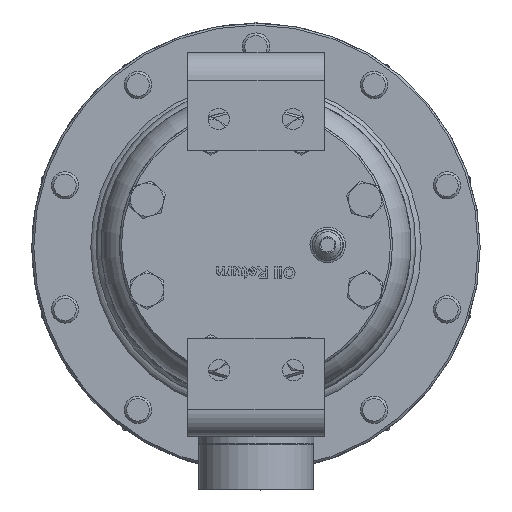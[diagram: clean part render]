
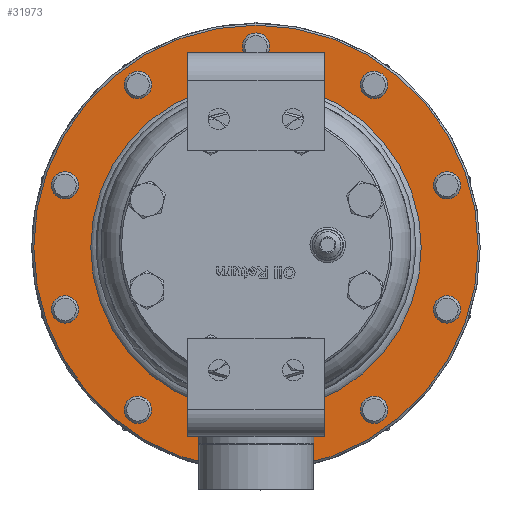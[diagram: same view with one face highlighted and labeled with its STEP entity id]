
A CAD part, top view. The second image highlights one B-rep face of the part: STEP entity #31973.
In plain terms, the highlighted planar face has unit normal (0, 0, 1).
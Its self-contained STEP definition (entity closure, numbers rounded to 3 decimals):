
#2335=PLANE('',#34819);
#7074=FACE_BOUND('',#12124,.T.);
#7075=FACE_BOUND('',#12125,.T.);
#7076=FACE_BOUND('',#12126,.T.);
#7077=FACE_BOUND('',#12127,.T.);
#7078=FACE_BOUND('',#12128,.T.);
#7079=FACE_BOUND('',#12129,.T.);
#7080=FACE_BOUND('',#12130,.T.);
#7081=FACE_BOUND('',#12131,.T.);
#7082=FACE_BOUND('',#12132,.T.);
#7083=FACE_BOUND('',#12133,.T.);
#7084=FACE_BOUND('',#12134,.T.);
#9857=FACE_OUTER_BOUND('',#12123,.T.);
#12123=EDGE_LOOP('',(#30045));
#12124=EDGE_LOOP('',(#30046));
#12125=EDGE_LOOP('',(#30047));
#12126=EDGE_LOOP('',(#30048));
#12127=EDGE_LOOP('',(#30049));
#12128=EDGE_LOOP('',(#30050));
#12129=EDGE_LOOP('',(#30051));
#12130=EDGE_LOOP('',(#30052));
#12131=EDGE_LOOP('',(#30053));
#12132=EDGE_LOOP('',(#30054));
#12133=EDGE_LOOP('',(#30055));
#12134=EDGE_LOOP('',(#30056));
#12190=CIRCLE('',#32041,84.767);
#12914=CIRCLE('',#34305,7.);
#12933=CIRCLE('',#34356,7.);
#12952=CIRCLE('',#34407,7.);
#12971=CIRCLE('',#34458,7.);
#12990=CIRCLE('',#34509,7.);
#13009=CIRCLE('',#34560,7.);
#13028=CIRCLE('',#34611,7.);
#13047=CIRCLE('',#34662,7.);
#13066=CIRCLE('',#34713,7.);
#13087=CIRCLE('',#34779,7.);
#13102=CIRCLE('',#34818,114.);
#13148=VERTEX_POINT('',#42708);
#15879=VERTEX_POINT('',#63896);
#15910=VERTEX_POINT('',#64030);
#15941=VERTEX_POINT('',#64164);
#15972=VERTEX_POINT('',#64298);
#16003=VERTEX_POINT('',#64432);
#16034=VERTEX_POINT('',#64566);
#16065=VERTEX_POINT('',#64700);
#16096=VERTEX_POINT('',#64834);
#16127=VERTEX_POINT('',#64968);
#16160=VERTEX_POINT('',#65119);
#16186=VERTEX_POINT('',#65232);
#16238=EDGE_CURVE('',#13148,#13148,#12190,.T.);
#20308=EDGE_CURVE('',#15879,#15879,#12914,.T.);
#20359=EDGE_CURVE('',#15910,#15910,#12933,.T.);
#20410=EDGE_CURVE('',#15941,#15941,#12952,.T.);
#20461=EDGE_CURVE('',#15972,#15972,#12971,.T.);
#20512=EDGE_CURVE('',#16003,#16003,#12990,.T.);
#20563=EDGE_CURVE('',#16034,#16034,#13009,.T.);
#20614=EDGE_CURVE('',#16065,#16065,#13028,.T.);
#20665=EDGE_CURVE('',#16096,#16096,#13047,.T.);
#20716=EDGE_CURVE('',#16127,#16127,#13066,.T.);
#20769=EDGE_CURVE('',#16160,#16160,#13087,.T.);
#20808=EDGE_CURVE('',#16186,#16186,#13102,.T.);
#30045=ORIENTED_EDGE('',*,*,#20808,.F.);
#30046=ORIENTED_EDGE('',*,*,#20308,.T.);
#30047=ORIENTED_EDGE('',*,*,#20359,.T.);
#30048=ORIENTED_EDGE('',*,*,#20410,.T.);
#30049=ORIENTED_EDGE('',*,*,#20461,.T.);
#30050=ORIENTED_EDGE('',*,*,#20512,.T.);
#30051=ORIENTED_EDGE('',*,*,#20563,.T.);
#30052=ORIENTED_EDGE('',*,*,#20614,.T.);
#30053=ORIENTED_EDGE('',*,*,#20665,.T.);
#30054=ORIENTED_EDGE('',*,*,#20716,.T.);
#30055=ORIENTED_EDGE('',*,*,#20769,.T.);
#30056=ORIENTED_EDGE('',*,*,#16238,.T.);
#31973=ADVANCED_FACE('',(#9857,#7074,#7075,#7076,#7077,#7078,#7079,#7080,
#7081,#7082,#7083,#7084),#2335,.F.);
#32041=AXIS2_PLACEMENT_3D('',#42709,#34954,#34955);
#34305=AXIS2_PLACEMENT_3D('',#63897,#41344,#41345);
#34356=AXIS2_PLACEMENT_3D('',#64031,#41462,#41463);
#34407=AXIS2_PLACEMENT_3D('',#64165,#41580,#41581);
#34458=AXIS2_PLACEMENT_3D('',#64299,#41698,#41699);
#34509=AXIS2_PLACEMENT_3D('',#64433,#41816,#41817);
#34560=AXIS2_PLACEMENT_3D('',#64567,#41934,#41935);
#34611=AXIS2_PLACEMENT_3D('',#64701,#42052,#42053);
#34662=AXIS2_PLACEMENT_3D('',#64835,#42170,#42171);
#34713=AXIS2_PLACEMENT_3D('',#64969,#42288,#42289);
#34779=AXIS2_PLACEMENT_3D('',#65120,#42436,#42437);
#34818=AXIS2_PLACEMENT_3D('',#65233,#42526,#42527);
#34819=AXIS2_PLACEMENT_3D('',#65234,#42528,#42529);
#34954=DIRECTION('center_axis',(0.,0.,
-1.));
#34955=DIRECTION('ref_axis',(1.,0.,0.));
#41344=DIRECTION('center_axis',(0.,0.,
-1.));
#41345=DIRECTION('ref_axis',(-0.588,0.809,0.));
#41462=DIRECTION('center_axis',(0.,0.,
-1.));
#41463=DIRECTION('ref_axis',(-0.951,0.309,0.));
#41580=DIRECTION('center_axis',(0.,0.,
-1.));
#41581=DIRECTION('ref_axis',(-0.951,-0.309,0.));
#41698=DIRECTION('center_axis',(0.,0.,
-1.));
#41699=DIRECTION('ref_axis',(-0.588,-0.809,0.));
#41816=DIRECTION('center_axis',(0.,0.,
-1.));
#41817=DIRECTION('ref_axis',(0.,-1.,0.));
#41934=DIRECTION('center_axis',(0.,0.,
-1.));
#41935=DIRECTION('ref_axis',(0.588,-0.809,0.));
#42052=DIRECTION('center_axis',(0.,0.,
-1.));
#42053=DIRECTION('ref_axis',(0.951,-0.309,0.));
#42170=DIRECTION('center_axis',(0.,0.,
-1.));
#42171=DIRECTION('ref_axis',(0.951,0.309,0.));
#42288=DIRECTION('center_axis',(0.,0.,
-1.));
#42289=DIRECTION('ref_axis',(0.588,0.809,0.));
#42436=DIRECTION('center_axis',(0.,0.,
-1.));
#42437=DIRECTION('ref_axis',(0.,1.,0.));
#42526=DIRECTION('center_axis',(0.,0.,
-1.));
#42527=DIRECTION('ref_axis',(1.,0.,0.));
#42528=DIRECTION('center_axis',(0.,0.,
-1.));
#42529=DIRECTION('ref_axis',(1.,0.,0.));
#42708=CARTESIAN_POINT('',(84.767,0.,-472.));
#42709=CARTESIAN_POINT('Origin',(0.,0.,
-472.));
#63896=CARTESIAN_POINT('',(-56.427,77.666,-472.));
#63897=CARTESIAN_POINT('Origin',(-60.542,83.329,-472.));
#64030=CARTESIAN_POINT('',(-91.301,29.666,-472.));
#64031=CARTESIAN_POINT('Origin',(-97.959,31.829,-472.));
#64164=CARTESIAN_POINT('',(-91.301,-29.666,-472.));
#64165=CARTESIAN_POINT('Origin',(-97.959,-31.829,-472.));
#64298=CARTESIAN_POINT('',(-56.427,-77.666,-472.));
#64299=CARTESIAN_POINT('Origin',(-60.542,-83.329,-472.));
#64432=CARTESIAN_POINT('',(0.,-96.,-472.));
#64433=CARTESIAN_POINT('Origin',(0.,-103.,-472.));
#64566=CARTESIAN_POINT('',(56.427,-77.666,-472.));
#64567=CARTESIAN_POINT('Origin',(60.542,-83.329,-472.));
#64700=CARTESIAN_POINT('',(91.301,-29.666,-472.));
#64701=CARTESIAN_POINT('Origin',(97.959,-31.829,-472.));
#64834=CARTESIAN_POINT('',(91.301,29.666,-472.));
#64835=CARTESIAN_POINT('Origin',(97.959,31.829,-472.));
#64968=CARTESIAN_POINT('',(56.427,77.666,-472.));
#64969=CARTESIAN_POINT('Origin',(60.542,83.329,-472.));
#65119=CARTESIAN_POINT('',(0.,96.,-472.));
#65120=CARTESIAN_POINT('Origin',(0.,103.,-472.));
#65232=CARTESIAN_POINT('',(-114.,0.,-472.));
#65233=CARTESIAN_POINT('Origin',(0.,0.,
-472.));
#65234=CARTESIAN_POINT('Origin',(0.,0.,
-472.));
